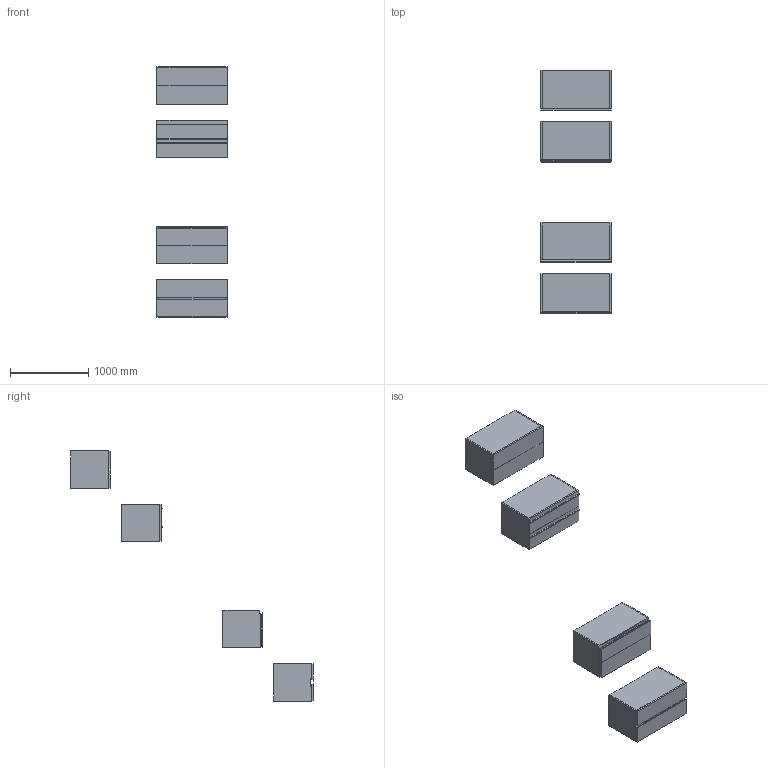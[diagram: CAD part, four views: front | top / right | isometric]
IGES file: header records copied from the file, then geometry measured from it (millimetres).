
Start section: Data from Parasolid IGES Translator 19.0.9, Copyright(c) 2006 Siemens PL M Software. All Rights Reserved.
Global section: file name: noorth-SI-H 48 D 51 W 90_8583.igs; native system: By Siemens PLM Incorporated; preprocessor: XPlus GENERIC/IGES 19.0.9; author: Noname; organization: Noname; date: 20200601.112555; units: metre
Bounding box: 900 x 3107.1 x 3200.01 mm (x, y, z)
Volume: 119440188.5 mm3; surface area: 18281130.5 mm2
Topology: 33 solids, 33 shells, 318 faces, 700 edges, 428 vertices
Faces by surface type: plane 230, extrusion 36, bspline 32, cylinder 20
